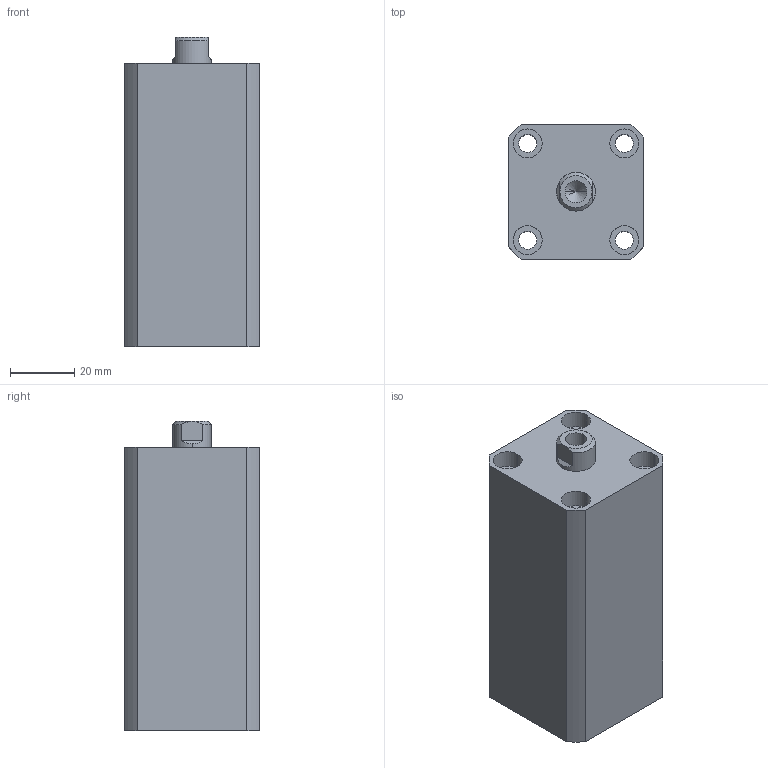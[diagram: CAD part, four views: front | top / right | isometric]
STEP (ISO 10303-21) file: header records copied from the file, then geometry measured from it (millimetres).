
FILE_DESCRIPTION (( 'STEP AP203' ), '1' );
FILE_NAME ('HTB-SDMB20-45N.STEP', '2019-10-08T11:57:00', ( '微软用户' ), ( '微软中国' ), 'SwSTEP 2.0', 'SolidWorks 2012', '' );
FILE_SCHEMA (( 'CONFIG_CONTROL_DESIGN' ));
Length unit declared in the file: millimetre
Products named in the file (3): HTB-SDMB20-45N活塞杆; HTB-SDMB20-45N; HTB-SDMB20-45掛极
Assembly tree (2 placements, depth 2):
  HTB-SDMB20-45N
    HTB-SDMB20-45掛极
    HTB-SDMB20-45N活塞杆
Bounding box: 42 x 42 x 96 mm (x, y, z)
Volume: 133168.4 mm3; surface area: 33594.6 mm2
Topology: 2 solids, 2 shells, 136 faces, 326 edges, 213 vertices
Faces by surface type: plane 64, cylinder 46, bspline 16, torus 6, cone 4
Entity records: 5023 total; most frequent: CARTESIAN_POINT 1570, ORIENTED_EDGE 648, DIRECTION 640, EDGE_CURVE 324, AXIS2_PLACEMENT_3D 231, VERTEX_POINT 213, VECTOR 178, LINE 178
